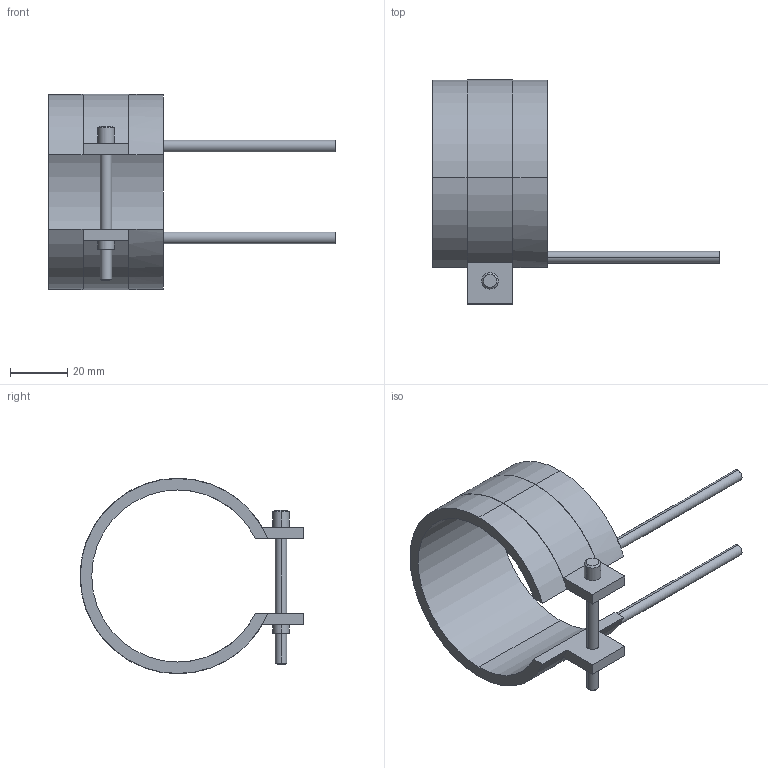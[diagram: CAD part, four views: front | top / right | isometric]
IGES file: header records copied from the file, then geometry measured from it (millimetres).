
Start section: START RECORD GO HERE.
Global section: file name: 14060040.igs; native system: DASSAULT SYSTEMES CATIA V5 R20 - www.3ds.com; preprocessor: CATIA Version 5 Release 20 ; author: Utente; organization: NB04-ASUS; date: 20210331.144926; units: millimetre
Bounding box: 100 x 78.1 x 68.2 mm (x, y, z)
Surface area: 18896.5 mm2 (no closed solid volume)
Topology: 0 solids, 0 shells, 45 faces, 232 edges, 232 vertices
Faces by surface type: revolution 28, plane 17
